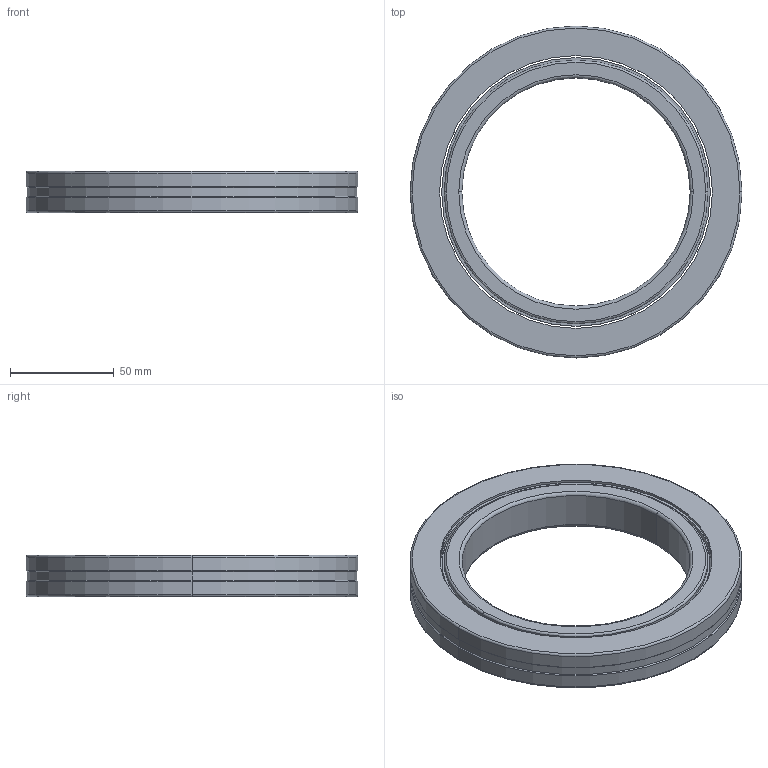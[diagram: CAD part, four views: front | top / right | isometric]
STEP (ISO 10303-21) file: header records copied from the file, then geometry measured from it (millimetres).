
FILE_DESCRIPTION((''),'2;1');
FILE_NAME('CRBH11020','2017-07-28T',('Administrator'),(''),'PRO/ENGINEER BY PARAMETRIC TECHNOLOGY CORPORATION, 2010180','PRO/ENGINEER BY PARAMETRIC TECHNOLOGY CORPORATION, 2010180','');
FILE_SCHEMA(('AUTOMOTIVE_DESIGN_CC2 { 1 2 10303 214 -1 1 5 2 }'));
Length unit declared in the file: millimetre
Products named in the file (1): CRBH11020
Bounding box: 160 x 160 x 20 mm (x, y, z)
Volume: 174254.9 mm3; surface area: 60700.3 mm2
Topology: 2 solids, 2 shells, 62 faces, 1588 edges, 1538 vertices
Faces by surface type: cylinder 28, torus 12, cone 12, plane 10
Entity records: 15322 total; most frequent: DIRECTION 1804, CARTESIAN_POINT 1723, PRESENTATION_STYLE_ASSIGNMENT 1522, STYLED_ITEM 1522, VECTOR 1498, LINE 1498, CURVE_STYLE 1465, TRIMMED_CURVE 1464
